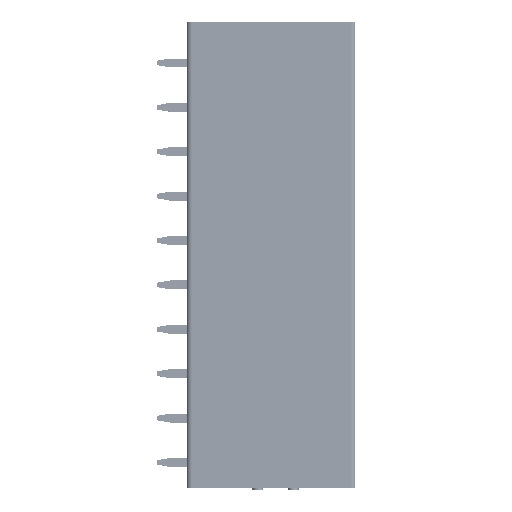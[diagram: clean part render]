
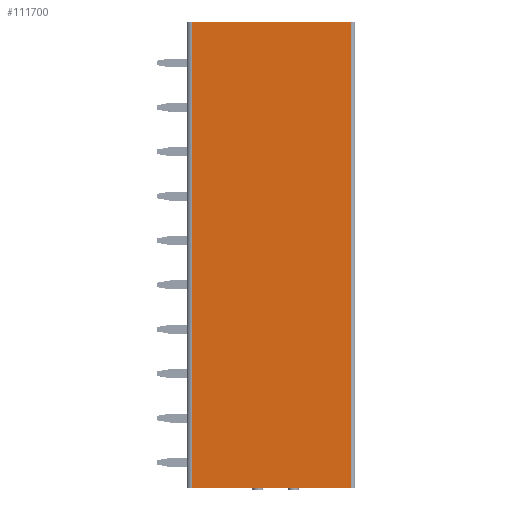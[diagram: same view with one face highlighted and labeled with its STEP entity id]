
A CAD part, top view. The second image highlights one B-rep face of the part: STEP entity #111700.
In plain terms, the highlighted planar face has unit normal (0, 0, 1).
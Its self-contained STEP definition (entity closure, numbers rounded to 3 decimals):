
#15131 = EDGE_CURVE ( 'NONE', #148177, #148434, #30731, .T. ) ;
#15135 = EDGE_CURVE ( 'NONE', #148434, #148438, #30748, .T. ) ;
#15138 = EDGE_CURVE ( 'NONE', #148266, #148438, #30759, .T. ) ;
#15378 = EDGE_CURVE ( 'NONE', #148177, #148266, #164697, .T. ) ;
#30688 = CARTESIAN_POINT ( 'NONE',  ( -0.001, 7.5, 10. ) ) ;
#30731 = LINE ( 'NONE', #30688, #173543 ) ;
#30745 = DIRECTION ( 'NONE',  ( 1., 0., 0. ) ) ;
#30748 = LINE ( 'NONE', #30753, #173535 ) ;
#30753 = CARTESIAN_POINT ( 'NONE',  ( 9., 4.95, 10. ) ) ;
#30756 = DIRECTION ( 'NONE',  ( 0., -1., 0. ) ) ;
#30759 = LINE ( 'NONE', #30764, #173534 ) ;
#30764 = CARTESIAN_POINT ( 'NONE',  ( -0.001, -45., 10. ) ) ;
#30767 = DIRECTION ( 'NONE',  ( 1., 0., 0. ) ) ;
#100004 = AXIS2_PLACEMENT_3D ( 'NONE', #179341, #179351, #179354 ) ;
#106298 = EDGE_LOOP ( 'NONE', ( #126437, #126443, #126451, #126459 ) ) ;
#111700 = ADVANCED_FACE ( 'NONE', ( #179346 ), #179325, .T. ) ;
#126437 = ORIENTED_EDGE ( 'NONE', *, *, #15138, .T. ) ;
#126443 = ORIENTED_EDGE ( 'NONE', *, *, #15135, .F. ) ;
#126451 = ORIENTED_EDGE ( 'NONE', *, *, #15131, .F. ) ;
#126459 = ORIENTED_EDGE ( 'NONE', *, *, #15378, .T. ) ;
#148177 = VERTEX_POINT ( 'NONE', #182578 ) ;
#148266 = VERTEX_POINT ( 'NONE', #183326 ) ;
#148434 = VERTEX_POINT ( 'NONE', #184217 ) ;
#148438 = VERTEX_POINT ( 'NONE', #184213 ) ;
#164685 = CARTESIAN_POINT ( 'NONE',  ( -8.95, 6.25, 10. ) ) ;
#164697 = LINE ( 'NONE', #164685, #173367 ) ;
#164701 = DIRECTION ( 'NONE',  ( 0., -1., 0. ) ) ;
#173367 = VECTOR ( 'NONE', #164701, 1000. ) ;
#173534 = VECTOR ( 'NONE', #30767, 1000. ) ;
#173535 = VECTOR ( 'NONE', #30756, 1000. ) ;
#173543 = VECTOR ( 'NONE', #30745, 1000. ) ;
#179325 = PLANE ( 'NONE',  #100004 ) ;
#179341 = CARTESIAN_POINT ( 'NONE',  ( 0.025, 6.25, 10. ) ) ;
#179346 = FACE_OUTER_BOUND ( 'NONE', #106298, .T. ) ;
#179351 = DIRECTION ( 'NONE',  ( 0., 0., 1. ) ) ;
#179354 = DIRECTION ( 'NONE',  ( 1., 0., 0. ) ) ;
#182578 = CARTESIAN_POINT ( 'NONE',  ( -8.95, 7.5, 10. ) ) ;
#183326 = CARTESIAN_POINT ( 'NONE',  ( -8.95, -45., 10. ) ) ;
#184213 = CARTESIAN_POINT ( 'NONE',  ( 9., -45., 10. ) ) ;
#184217 = CARTESIAN_POINT ( 'NONE',  ( 9., 7.5, 10. ) ) ;
